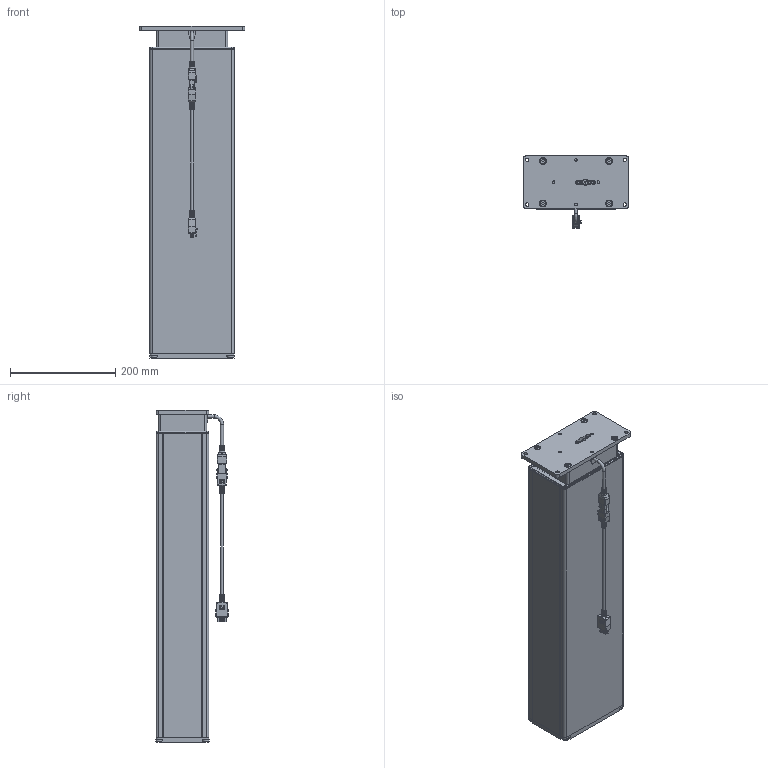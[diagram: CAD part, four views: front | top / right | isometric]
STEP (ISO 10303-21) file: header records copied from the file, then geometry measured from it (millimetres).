
FILE_DESCRIPTION(/* description */ ('Unknown'),/* implementation_level */ '2;1');
FILE_NAME(/* name */ '911.00104_01-eingefahren',/* time_stamp */ '2026-03-27T07:54:44+01:00',/* author */ ('Unknown'),/* organization */ ('Unknown'),/* preprocessor_version */ 'ST-DEVELOPER v20',/* originating_system */ 'Solid Edge',/* authorisation */ 'Unknown');
FILE_SCHEMA (('AUTOMOTIVE_DESIGN {1 0 10303 214 3 1 1}'));
Products named in the file (38): 911.00104; 126.00191; 119.00587; 119.00576; 126.00193; 124.00201; 3120_01-01_3D_0; 3120_02-02_3D_0; 3130_48-04_3D_0; HK-1210_0; DIN7380-M5X8-BR-M_0; 3121_17-01_3D_0; 3120_13-01_3D_0; WN1452-K40X14_0; 61801-ZZ_0; 3121_76-05_3D_0; 6001-ZZ_0; 115.00200; 125.00260; 125.00261; 142.00012; 110.00113; 125.00353; 142.00242; 125.00259; 142.00243; 127.00455; 125.00364; 142.00331; 142.00303; 142.00342; 142.00241; 142.00154; 142.00039; 128.00078; Kabel Motor Sx; 124.00151; 119.00575
Assembly tree (52 placements, depth 3):
  911.00104
    126.00191
    119.00587  x2
    119.00576  x2
    126.00193
    124.00201
      3120_01-01_3D_0
      3120_02-02_3D_0
      3130_48-04_3D_0
      HK-1210_0
      DIN7380-M5X8-BR-M_0  x2
      3121_17-01_3D_0
      3120_13-01_3D_0
      WN1452-K40X14_0  x4
      61801-ZZ_0
      3121_76-05_3D_0
      6001-ZZ_0
    115.00200
      125.00260
      125.00261
      142.00012
    110.00113
      125.00353
      142.00242  x2
      125.00259
      142.00243
    127.00455
    125.00364
    142.00331
    142.00303  x4
    142.00342
    142.00241  x2
    142.00154  x4
    142.00039  x2
    128.00078
    Kabel Motor Sx
    124.00151
    119.00575
Bounding box: 200 x 137.17 x 630 mm (x, y, z)
Volume: 3274858.3 mm3; surface area: 1734077.5 mm2
Topology: 71 solids, 72 shells, 3430 faces, 8579 edges, 5418 vertices
Faces by surface type: plane 1440, cylinder 964, torus 473, cone 287, bspline 182, sphere 84
Full cylindrical faces by diameter (mm): 1.5 x6, 1.82 x6, 2 x4, 2.7 x6, 2.8 x1, 3.464 x2, 3.5 x2, 3.6 x4, 3.621 x4, 3.65 x2, 3.94 x1, 4 x75, 4.1 x5, 4.134 x7, 4.2 x2, 4.567 x2, 4.917 x4, 5 x20, 5.1 x2, 5.5 x2, 6 x11, 6.02 x1, 6.2 x4, 6.4 x1, 6.5 x4, 6.6 x4, 6.647 x5, 6.8 x2, 6.9 x1, 7 x2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
Entity records: 102336 total; most frequent: CARTESIAN_POINT 24436, DIRECTION 13882, ORIENTED_EDGE 13338, EDGE_CURVE 6669, AXIS2_PLACEMENT_3D 5275, VERTEX_POINT 4468, FACE_BOUND 3547, EDGE_LOOP 3520
